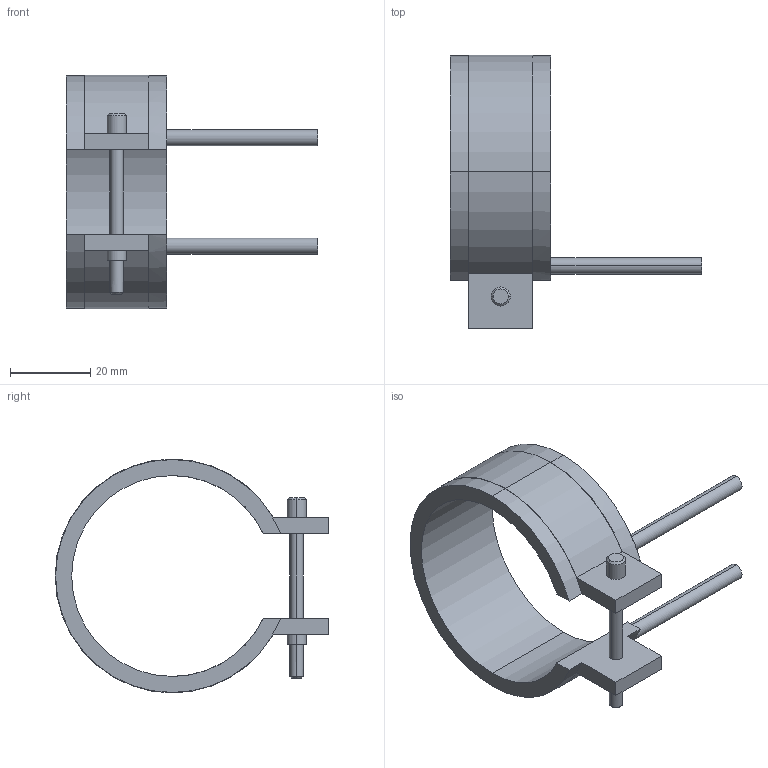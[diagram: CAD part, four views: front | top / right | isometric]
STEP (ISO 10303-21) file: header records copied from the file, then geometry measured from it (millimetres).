
FILE_DESCRIPTION(('CATIA V5 STEP Exchange'),'2;1');
FILE_NAME('C:\Users\Utente\Desktop\IO LAVORO\3D X SITO CF\X SITO\PLASTICA\RF2\14050025.stp','2021-03-31T11:55:15+00:00',('none'),('none'),'CATIA Version 5 Release 20 GA (IN-10)','CATIA V5 STEP AP203','none');
FILE_SCHEMA(('CONFIG_CONTROL_DESIGN'));
Length unit declared in the file: millimetre
Products named in the file (1): 14050025
Bounding box: 62.5 x 68.1 x 58.2 mm (x, y, z)
Volume: 18027.9 mm3; surface area: 11199.1 mm2
Topology: 1 solids, 1 shells, 45 faces, 116 edges, 76 vertices
Faces by surface type: cylinder 24, plane 17, cone 4
Entity records: 1400 total; most frequent: CARTESIAN_POINT 274, ORIENTED_EDGE 232, DIRECTION 196, EDGE_CURVE 116, AXIS2_PLACEMENT_3D 104, VERTEX_POINT 76, CIRCLE 62, VECTOR 52
